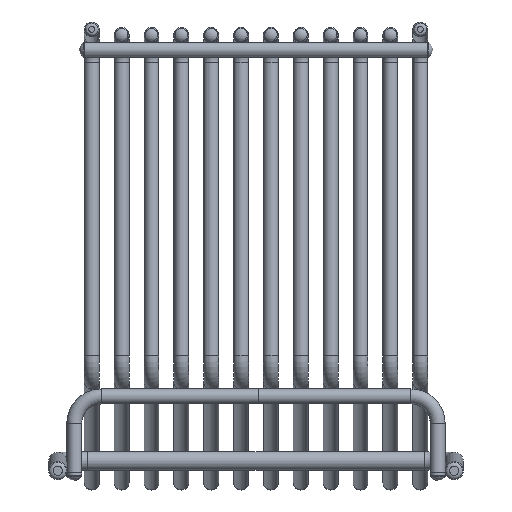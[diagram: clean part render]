
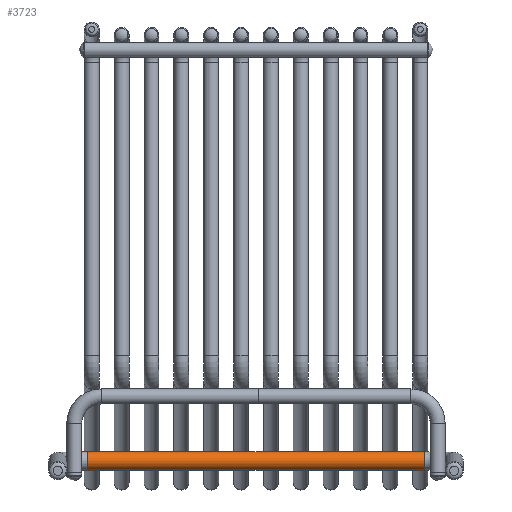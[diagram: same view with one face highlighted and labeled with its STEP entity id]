
A CAD part, front view. The second image highlights one B-rep face of the part: STEP entity #3723.
In plain terms, the highlighted cylindrical face has radius 11 mm (diameter 22 mm), a full revolution.
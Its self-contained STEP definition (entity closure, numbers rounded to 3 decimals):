
#3723=ADVANCED_FACE('',(#4375,#4376),#4377,.T.);
#4375=FACE_OUTER_BOUND('',#5210,.T.);
#4376=FACE_OUTER_BOUND('',#5211,.T.);
#4377=CYLINDRICAL_SURFACE('',#5212,11.0);
#5210=EDGE_LOOP('',(#6492));
#5211=EDGE_LOOP('',(#6493));
#5212=AXIS2_PLACEMENT_3D('',#6494,#6495,#6496);
#6492=ORIENTED_EDGE('',*,*,#7173,.F.);
#6493=ORIENTED_EDGE('',*,*,#7172,.T.);
#6494=CARTESIAN_POINT('',(463.0,666.062,-531.177));
#6495=DIRECTION('',(-1.0,0.,0.));
#6496=DIRECTION('',(0.,-0.017,1.));
#7172=EDGE_CURVE('',#7618,#7618,#7619,.T.);
#7173=EDGE_CURVE('',#7620,#7620,#7621,.T.);
#7618=VERTEX_POINT('',#8154);
#7619=CIRCLE('',#8155,11.0);
#7620=VERTEX_POINT('',#8156);
#7621=CIRCLE('',#8157,11.0);
#8154=CARTESIAN_POINT('',(463.0,665.87,-520.178));
#8155=AXIS2_PLACEMENT_3D('',#8868,#8869,#8870);
#8156=CARTESIAN_POINT('',(57.0,665.87,-520.178));
#8157=AXIS2_PLACEMENT_3D('',#8871,#8872,#8873);
#8868=CARTESIAN_POINT('',(463.0,666.062,-531.177));
#8869=DIRECTION('',(-1.0,0.,0.));
#8870=DIRECTION('',(0.,-0.017,1.));
#8871=CARTESIAN_POINT('',(57.0,666.062,-531.177));
#8872=DIRECTION('',(-1.0,0.,0.));
#8873=DIRECTION('',(0.,-0.017,1.));
